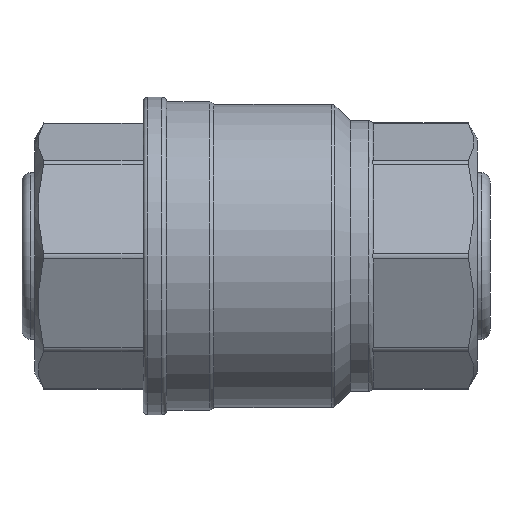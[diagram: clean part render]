
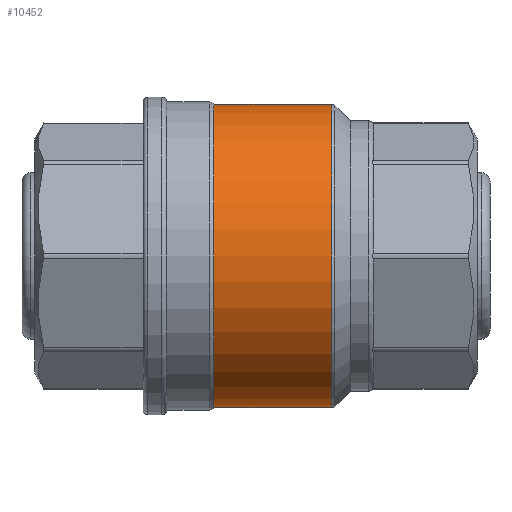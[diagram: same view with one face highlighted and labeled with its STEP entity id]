
A CAD part, front view. The second image highlights one B-rep face of the part: STEP entity #10452.
In plain terms, the highlighted cylindrical face has radius 64.5 mm (diameter 129 mm), a partial arc.
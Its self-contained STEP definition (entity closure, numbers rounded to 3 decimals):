
#99 = CARTESIAN_POINT ( 'NONE',  ( -18., 0., 0. ) ) ;
#101 = DIRECTION ( 'NONE',  ( 1., 0., 0. ) ) ;
#104 = CYLINDRICAL_SURFACE ( 'NONE', #9318, 64.5 ) ;
#105 = FACE_OUTER_BOUND ( 'NONE', #3890, .T. ) ;
#107 = DIRECTION ( 'NONE',  ( 0., 0., -1. ) ) ;
#493 = CARTESIAN_POINT ( 'NONE',  ( -18., 0., 0. ) ) ;
#495 = DIRECTION ( 'NONE',  ( 1., 0., 0. ) ) ;
#496 = DIRECTION ( 'NONE',  ( 0., 0., 1. ) ) ;
#498 = CARTESIAN_POINT ( 'NONE',  ( 32.172, 0., 0. ) ) ;
#499 = DIRECTION ( 'NONE',  ( -1., 0., 0. ) ) ;
#500 = DIRECTION ( 'NONE',  ( 0., 0., -1. ) ) ;
#3282 = EDGE_CURVE ( 'NONE', #9768, #9866, #10986, .T. ) ;
#3283 = EDGE_CURVE ( 'NONE', #9770, #9863, #10991, .T. ) ;
#3355 = EDGE_CURVE ( 'NONE', #9768, #9770, #7767, .T. ) ;
#3356 = EDGE_CURVE ( 'NONE', #9863, #9866, #7768, .T. ) ;
#3890 = EDGE_LOOP ( 'NONE', ( #4679, #4680, #4681, #4682 ) ) ;
#4679 = ORIENTED_EDGE ( 'NONE', *, *, #3282, .F. ) ;
#4680 = ORIENTED_EDGE ( 'NONE', *, *, #3355, .T. ) ;
#4681 = ORIENTED_EDGE ( 'NONE', *, *, #3283, .T. ) ;
#4682 = ORIENTED_EDGE ( 'NONE', *, *, #3356, .T. ) ;
#4934 = CARTESIAN_POINT ( 'NONE',  ( -18., 0., 64.5 ) ) ;
#4938 = CARTESIAN_POINT ( 'NONE',  ( -18., 0., -64.5 ) ) ;
#5102 = CARTESIAN_POINT ( 'NONE',  ( 32.172, 0., -64.5 ) ) ;
#5106 = CARTESIAN_POINT ( 'NONE',  ( 32.172, 0., 64.5 ) ) ;
#7764 = AXIS2_PLACEMENT_3D ( 'NONE', #498, #499, #500 ) ;
#7766 = AXIS2_PLACEMENT_3D ( 'NONE', #493, #495, #496 ) ;
#7767 = CIRCLE ( 'NONE', #7766, 64.5 ) ;
#7768 = CIRCLE ( 'NONE', #7764, 64.5 ) ;
#7825 = VECTOR ( 'NONE', #10994, 1000. ) ;
#7829 = VECTOR ( 'NONE', #10990, 1000. ) ;
#9318 = AXIS2_PLACEMENT_3D ( 'NONE', #99, #101, #107 ) ;
#9768 = VERTEX_POINT ( 'NONE', #4934 ) ;
#9770 = VERTEX_POINT ( 'NONE', #4938 ) ;
#9863 = VERTEX_POINT ( 'NONE', #5102 ) ;
#9866 = VERTEX_POINT ( 'NONE', #5106 ) ;
#10452 = ADVANCED_FACE ( 'NONE', ( #105 ), #104, .T. ) ;
#10982 = CARTESIAN_POINT ( 'NONE',  ( -18., 0., 64.5 ) ) ;
#10986 = LINE ( 'NONE', #10982, #7829 ) ;
#10990 = DIRECTION ( 'NONE',  ( 1., 0., 0. ) ) ;
#10991 = LINE ( 'NONE', #10993, #7825 ) ;
#10993 = CARTESIAN_POINT ( 'NONE',  ( -18., 0., -64.5 ) ) ;
#10994 = DIRECTION ( 'NONE',  ( 1., 0., 0. ) ) ;
